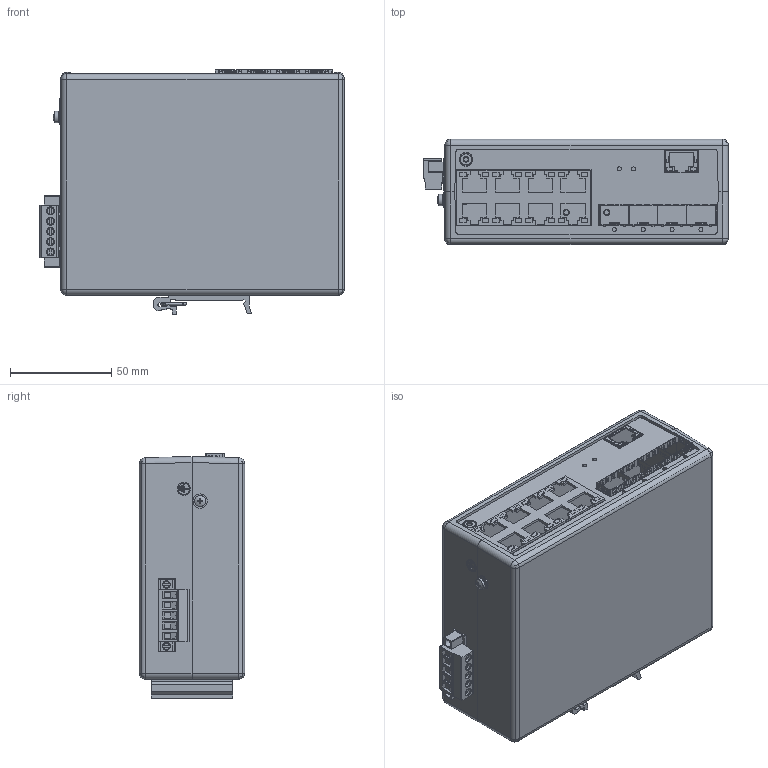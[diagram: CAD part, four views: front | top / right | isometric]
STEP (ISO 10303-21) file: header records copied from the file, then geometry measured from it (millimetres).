
FILE_DESCRIPTION(('TFLEX Exchange Step'),'2;1');
FILE_NAME('STK-EX-03-1000-C12W4080.stp', '2025-01-30T10:32:14+03:00',('Yuriy Romanov'),('Unknown organisation'),'TFLEX Exchange 2023.2','T-FLEX CAD','Unknown authorisation');
FILE_SCHEMA( ('AUTOMOTIVE_DESIGN { 1 0 10303 214 1 1 1 1 }') );
Length unit declared in the file: millimetre
Products named in the file (1): STK-EX-03-1000-C12W4080
Bounding box: 150.39 x 52 x 120.6 mm (x, y, z)
Volume: 64001.7 mm3; surface area: 120671 mm2
Topology: 34 solids, 38 shells, 2200 faces, 6148 edges, 4046 vertices
Faces by surface type: plane 1440, cylinder 573, cone 107, torus 46, bspline 25, sphere 9
Full cylindrical faces by diameter (mm): 1 x5, 1.2 x4, 2 x8, 2.5 x6, 3 x5, 3.4 x1, 3.5 x4, 3.85 x2, 3.95 x10, 4.5 x1, 5.5 x9, 5.6 x2, 6.4 x1, 7 x1
Entity records: 76273 total; most frequent: CARTESIAN_POINT 19526, ORIENTED_EDGE 12250, DIRECTION 11181, EDGE_CURVE 6125, VECTOR 4183, LINE 4183, VERTEX_POINT 4046, AXIS2_PLACEMENT_3D 3499
